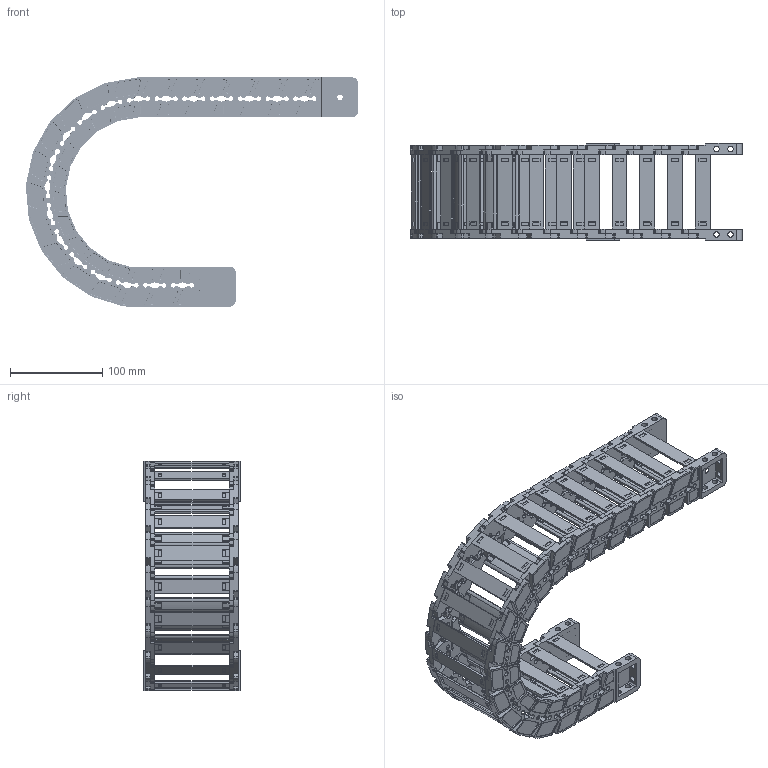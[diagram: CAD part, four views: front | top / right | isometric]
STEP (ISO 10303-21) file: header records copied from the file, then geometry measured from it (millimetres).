
FILE_DESCRIPTION((''),'2;1');
FILE_NAME('JY-35X80-R100_ASM','2025-01-05T19:26:30',('admin'),(''),'CREO PARAMETRIC BY PTC INC, 2021023','CREO PARAMETRIC BY PTC INC, 2021023','');
FILE_SCHEMA(('CONFIG_CONTROL_DESIGN'));
Length unit declared in the file: millimetre
Products named in the file (11): 35XL-L; YP; 35XL-R; ASM0001_ASM; 35-LTT-A-L; 35-LTT-A-R; 35XL-LTT-A_ASM; 35-LTT-B-L; 35-LTT-B-R; 35XL-LTT-B_ASM; JY-35X80-R100_ASM
Assembly tree (32 placements, depth 3):
  JY-35X80-R100_ASM
    ASM0001_ASM  x18
      35XL-L
      YP
      35XL-R
    35XL-LTT-A_ASM
      35-LTT-A-L
      YP  x2
      35-LTT-A-R
    35XL-LTT-B_ASM
      35-LTT-B-L
      YP  x2
      35-LTT-B-R
Bounding box: 359.13 x 104.5 x 247.81 mm (x, y, z)
Volume: 595785.5 mm3; surface area: 358024.1 mm2
Topology: 80 solids, 80 shells, 6520 faces, 19542 edges, 13190 vertices
Faces by surface type: plane 3688, cylinder 2148, cone 418, extrusion 152, bspline 114
Entity records: 27866 total; most frequent: CARTESIAN_POINT 6165, ORIENTED_EDGE 4640, DIRECTION 4359, EDGE_CURVE 2320, VERTEX_POINT 1568, AXIS2_PLACEMENT_3D 1471, VECTOR 1417, LINE 1401
